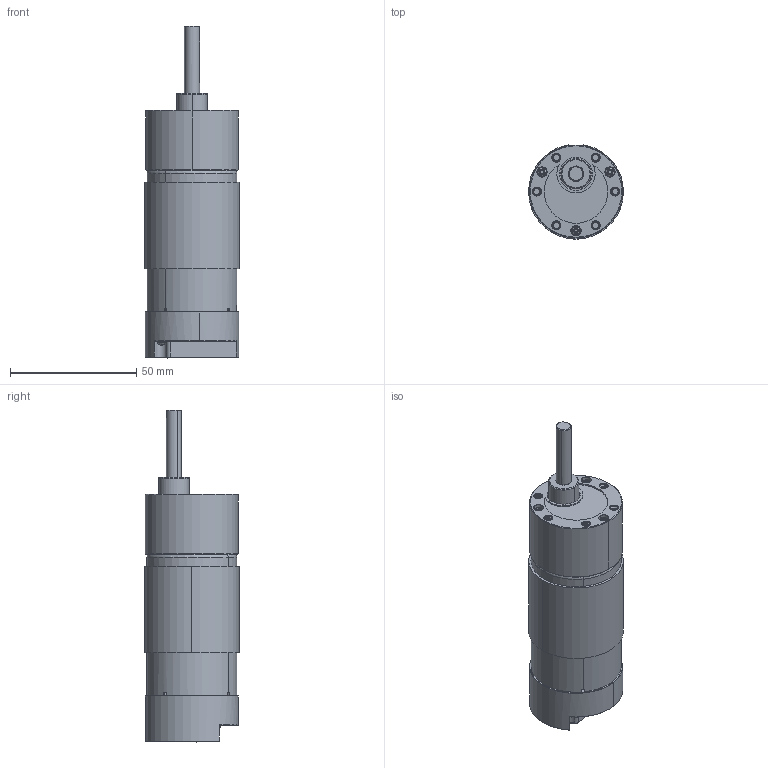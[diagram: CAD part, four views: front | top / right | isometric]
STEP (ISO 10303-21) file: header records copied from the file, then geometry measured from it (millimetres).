
FILE_DESCRIPTION (( 'STEP AP203' ), '1' );
FILE_NAME ('5201-0002-0026 part.STEP', '2018-08-14T04:01:59', ( '' ), ( '' ), 'SwSTEP 2.0', 'SolidWorks 2016', '' );
FILE_SCHEMA (( 'CONFIG_CONTROL_DESIGN' ));
Products named in the file (1): 5201-0002-0026 part
Bounding box: 37.5 x 37.27 x 131.35 mm (x, y, z)
Volume: 33946.6 mm3; surface area: 36295.9 mm2
Topology: 4 solids, 8 shells, 1966 faces, 5266 edges, 3358 vertices
Faces by surface type: cylinder 931, plane 415, bspline 281, torus 141, sphere 112, cone 86
Entity records: 120698 total; most frequent: CARTESIAN_POINT 77575, ORIENTED_EDGE 10518, DIRECTION 7628, EDGE_CURVE 5259, VERTEX_POINT 3357, AXIS2_PLACEMENT_3D 2838, EDGE_LOOP 2036, FACE_OUTER_BOUND 1966
